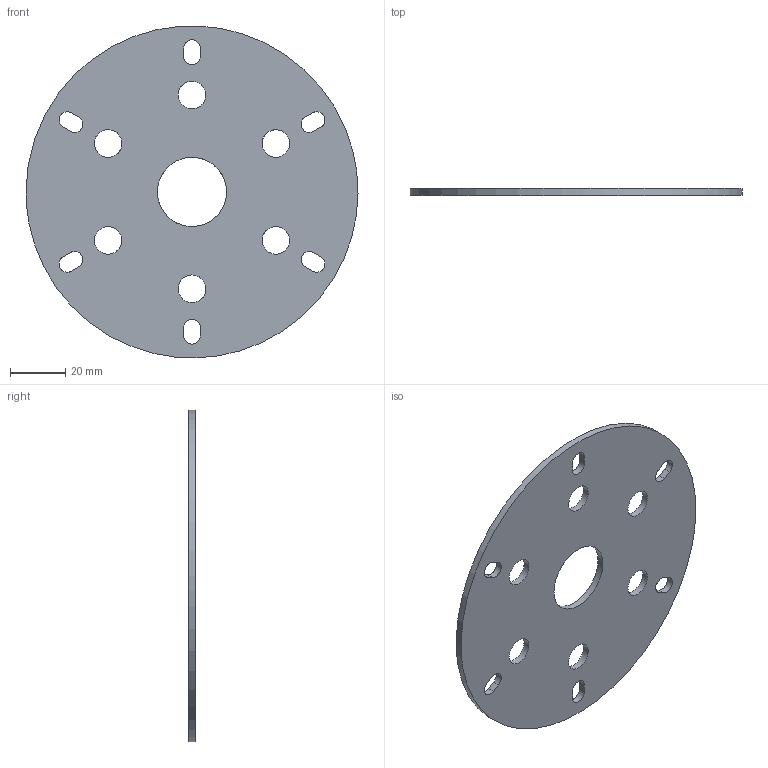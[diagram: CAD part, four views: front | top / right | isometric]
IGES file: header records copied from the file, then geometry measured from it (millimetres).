
Global section: file name: disque fixation pales v3 v1; native system: unknown; preprocessor: unknown; author: unknown; organization: unknown; date: 20160212.102803; units: millimetre
Bounding box: 120 x 2.5 x 119.93 mm (x, y, z)
Volume: 25205.8 mm3; surface area: 22127.9 mm2
Topology: 1 solids, 1 shells, 34 faces, 96 edges, 64 vertices
Faces by surface type: bspline 34
